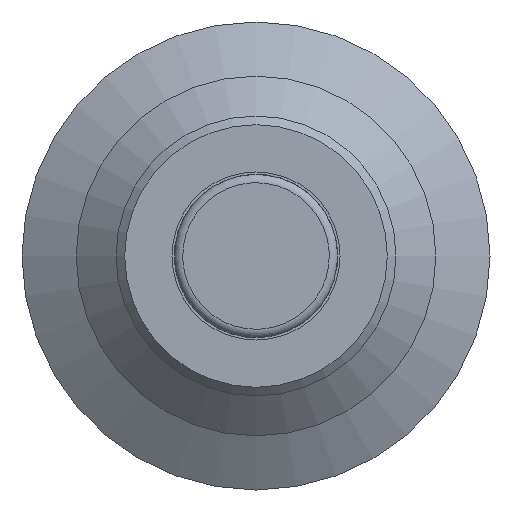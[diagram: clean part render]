
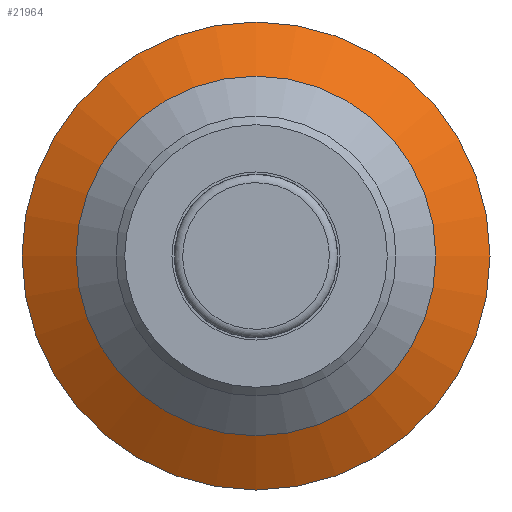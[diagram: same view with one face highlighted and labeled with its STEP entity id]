
A CAD part, front view. The second image highlights one B-rep face of the part: STEP entity #21964.
In plain terms, the highlighted conical face has half-angle 60 degrees and reference radius 11.938 mm.
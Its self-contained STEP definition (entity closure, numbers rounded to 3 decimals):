
#803=CONICAL_SURFACE('',#22778,11.938,1.047);
#2260=FACE_OUTER_BOUND('',#3441,.T.);
#3441=EDGE_LOOP('',(#19606,#19607,#19608,#19609));
#5316=CIRCLE('',#22612,13.5);
#5370=CIRCLE('',#22777,10.375);
#6620=LINE('',#49152,#7867);
#7867=VECTOR('',#25603,11.938);
#9520=VERTEX_POINT('',#40177);
#9994=VERTEX_POINT('',#49148);
#12273=EDGE_CURVE('',#9520,#9520,#5316,.T.);
#13198=EDGE_CURVE('',#9994,#9994,#5370,.T.);
#13200=EDGE_CURVE('',#9520,#9994,#6620,.T.);
#19606=ORIENTED_EDGE('',*,*,#12273,.F.);
#19607=ORIENTED_EDGE('',*,*,#13200,.T.);
#19608=ORIENTED_EDGE('',*,*,#13198,.T.);
#19609=ORIENTED_EDGE('',*,*,#13200,.F.);
#21964=ADVANCED_FACE('',(#2260),#803,.T.);
#22612=AXIS2_PLACEMENT_3D('',#40179,#24797,#24798);
#22777=AXIS2_PLACEMENT_3D('',#49149,#25598,#25599);
#22778=AXIS2_PLACEMENT_3D('',#49151,#25601,#25602);
#24797=DIRECTION('center_axis',(0.,1.,0.));
#24798=DIRECTION('ref_axis',(1.,0.,0.));
#25598=DIRECTION('center_axis',(0.,1.,0.));
#25599=DIRECTION('ref_axis',(1.,0.,0.));
#25601=DIRECTION('center_axis',(0.,1.,0.));
#25602=DIRECTION('ref_axis',(-1.,0.,0.));
#25603=DIRECTION('',(-0.866,-0.5,0.));
#40177=CARTESIAN_POINT('',(13.5,2.804,0.));
#40179=CARTESIAN_POINT('Origin',(0.,2.804,0.));
#49148=CARTESIAN_POINT('',(10.375,1.,0.));
#49149=CARTESIAN_POINT('Origin',(0.,1.,0.));
#49151=CARTESIAN_POINT('Origin',(0.,1.902,0.));
#49152=CARTESIAN_POINT('',(11.938,1.902,0.));
